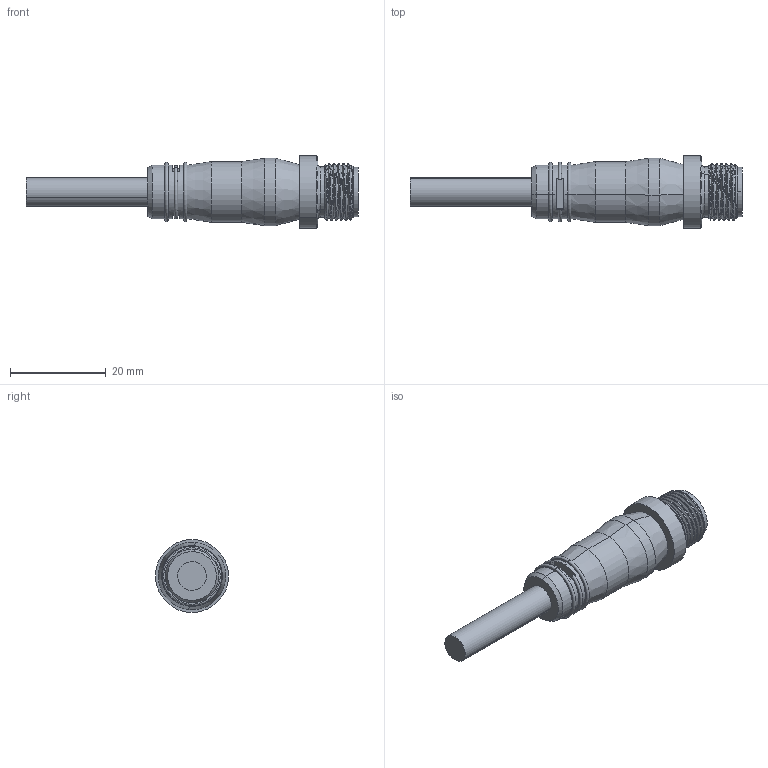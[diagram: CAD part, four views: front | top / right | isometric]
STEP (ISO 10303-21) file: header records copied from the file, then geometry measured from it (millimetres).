
FILE_DESCRIPTION (( 'STEP AP214' ), '1' );
FILE_NAME ('MDCP-8MP-ZZ.STEP', '2012-02-29T20:28:14', ( ' ' ), ( '' ), 'SwSTEP 2.0', 'SolidWorks 2012', '' );
FILE_SCHEMA (( 'AUTOMOTIVE_DESIGN' ));
Length unit declared in the file: inch
Products named in the file (1): MDCP-8MP-ZZ
Bounding box: 69.22 x 15.18 x 15.18 mm (x, y, z)
Volume: 5698.6 mm3; surface area: 3290.5 mm2
Topology: 2 solids, 2 shells, 267 faces, 661 edges, 425 vertices
Faces by surface type: plane 110, cylinder 61, bspline 40, cone 32, torus 24
Entity records: 14453 total; most frequent: CARTESIAN_POINT 4785, ORIENTED_EDGE 1322, DIRECTION 1211, EDGE_CURVE 661, AXIS2_PLACEMENT_3D 436, VERTEX_POINT 425, VECTOR 339, LINE 339
